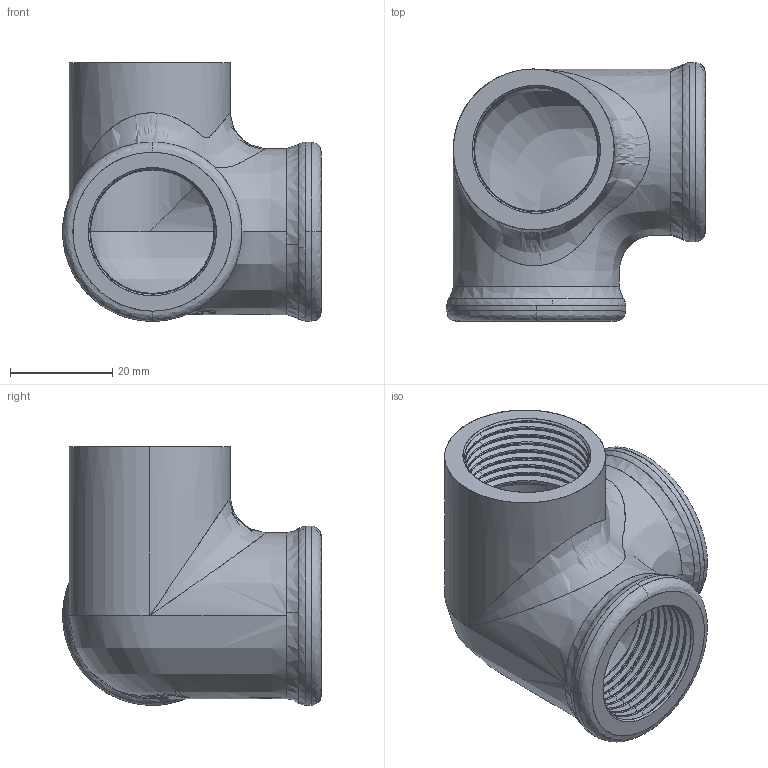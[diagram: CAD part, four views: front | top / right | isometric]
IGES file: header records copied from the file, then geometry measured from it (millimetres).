
Start section: SolidWorks IGES file using analytic representation for surfaces
Global section: file name: C:\Users\Joel Rosa\Desktop\Tubulação\12-15\12-05-006.IGS; native system: SolidWorks 2011; preprocessor: SolidWorks 2011; author: Joel Rosa; date: 130922.211127; units: millimetre
Bounding box: 50.5 x 50.5 x 50.5 mm (x, y, z)
Surface area: 17914.2 mm2 (no closed solid volume)
Topology: 0 solids, 0 shells, 419 faces, 4263 edges, 4262 vertices
Faces by surface type: bspline 303, revolution 116
